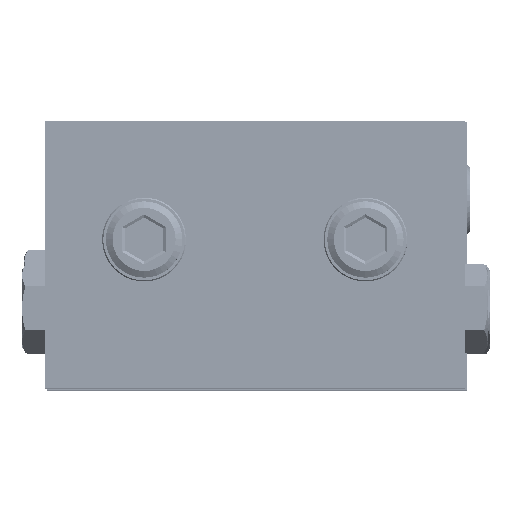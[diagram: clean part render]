
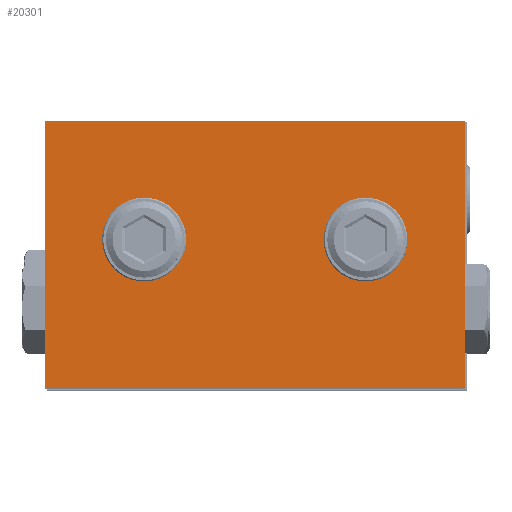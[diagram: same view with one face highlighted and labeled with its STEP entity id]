
A CAD part, top view. The second image highlights one B-rep face of the part: STEP entity #20301.
In plain terms, the highlighted planar face has unit normal (0, 0, 1) as drawn and (0, 0, -1) by its records, which use the part's own axes.
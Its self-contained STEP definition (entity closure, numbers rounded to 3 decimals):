
#448 = FACE_OUTER_BOUND ( 'NONE', #28440, .T. ) ;
#1157 = EDGE_LOOP ( 'NONE', ( #7011 ) ) ;
#5121 = EDGE_CURVE ( 'NONE', #9080, #9080, #14488, .T. ) ;
#5715 = CARTESIAN_POINT ( 'NONE',  ( -14.5, -15.5, -4.85 ) ) ;
#6324 = ORIENTED_EDGE ( 'NONE', *, *, #34199, .F. ) ;
#6448 = EDGE_LOOP ( 'NONE', ( #23881 ) ) ;
#7011 = ORIENTED_EDGE ( 'NONE', *, *, #5121, .F. ) ;
#7495 = VERTEX_POINT ( 'NONE', #36471 ) ;
#7661 = VERTEX_POINT ( 'NONE', #13384 ) ;
#7960 = CARTESIAN_POINT ( 'NONE',  ( 0., 0., -4.85 ) ) ;
#7995 = DIRECTION ( 'NONE',  ( 1., 0., 0. ) ) ;
#8312 = VECTOR ( 'NONE', #32478, 1000. ) ;
#9080 = VERTEX_POINT ( 'NONE', #11910 ) ;
#9601 = EDGE_CURVE ( 'NONE', #7495, #7495, #33884, .T. ) ;
#10459 = LINE ( 'NONE', #24738, #17442 ) ;
#10589 = ORIENTED_EDGE ( 'NONE', *, *, #11885, .F. ) ;
#10791 = LINE ( 'NONE', #7960, #23117 ) ;
#11496 = EDGE_CURVE ( 'NONE', #13953, #24462, #26640, .T. ) ;
#11532 = DIRECTION ( 'NONE',  ( 1., 0., 0. ) ) ;
#11885 = EDGE_CURVE ( 'NONE', #24462, #22578, #11905, .T. ) ;
#11905 = LINE ( 'NONE', #12084, #12606 ) ;
#11910 = CARTESIAN_POINT ( 'NONE',  ( -11.4, -15.5, -4.85 ) ) ;
#11976 = PLANE ( 'NONE',  #19397 ) ;
#12084 = CARTESIAN_POINT ( 'NONE',  ( 0., -35., -4.85 ) ) ;
#12606 = VECTOR ( 'NONE', #11532, 1000. ) ;
#13384 = CARTESIAN_POINT ( 'NONE',  ( 27.5, 0., -4.85 ) ) ;
#13953 = VERTEX_POINT ( 'NONE', #31751 ) ;
#14488 = CIRCLE ( 'NONE', #22289, 3.1 ) ;
#15753 = EDGE_CURVE ( 'NONE', #7661, #13953, #10791, .T. ) ;
#16880 = CARTESIAN_POINT ( 'NONE',  ( 14.5, -15.5, -4.85 ) ) ;
#17442 = VECTOR ( 'NONE', #27394, 1000. ) ;
#18149 = FACE_BOUND ( 'NONE', #1157, .T. ) ;
#18194 = CARTESIAN_POINT ( 'NONE',  ( -27.5, -35., -4.85 ) ) ;
#18524 = CARTESIAN_POINT ( 'NONE',  ( 0., 0., -4.85 ) ) ;
#19397 = AXIS2_PLACEMENT_3D ( 'NONE', #18524, #32865, #36219 ) ;
#20092 = DIRECTION ( 'NONE',  ( 0., 0., -1. ) ) ;
#20301 = ADVANCED_FACE ( 'NONE', ( #18149, #26263, #448 ), #11976, .F. ) ;
#20873 = ORIENTED_EDGE ( 'NONE', *, *, #11496, .F. ) ;
#20966 = CARTESIAN_POINT ( 'NONE',  ( -27.5, 0., -4.85 ) ) ;
#22289 = AXIS2_PLACEMENT_3D ( 'NONE', #5715, #28694, #7995 ) ;
#22578 = VERTEX_POINT ( 'NONE', #27812 ) ;
#22707 = DIRECTION ( 'NONE',  ( -1., 0., 0. ) ) ;
#23019 = AXIS2_PLACEMENT_3D ( 'NONE', #16880, #20092, #22707 ) ;
#23117 = VECTOR ( 'NONE', #33224, 1000. ) ;
#23881 = ORIENTED_EDGE ( 'NONE', *, *, #9601, .F. ) ;
#24462 = VERTEX_POINT ( 'NONE', #18194 ) ;
#24738 = CARTESIAN_POINT ( 'NONE',  ( 27.5, 0., -4.85 ) ) ;
#26263 = FACE_BOUND ( 'NONE', #6448, .T. ) ;
#26640 = LINE ( 'NONE', #20966, #8312 ) ;
#27394 = DIRECTION ( 'NONE',  ( 0., 1., 0. ) ) ;
#27812 = CARTESIAN_POINT ( 'NONE',  ( 27.5, -35., -4.85 ) ) ;
#28440 = EDGE_LOOP ( 'NONE', ( #33723, #6324, #10589, #20873 ) ) ;
#28694 = DIRECTION ( 'NONE',  ( 0., 0., -1. ) ) ;
#31751 = CARTESIAN_POINT ( 'NONE',  ( -27.5, 0., -4.85 ) ) ;
#32478 = DIRECTION ( 'NONE',  ( 0., -1., 0. ) ) ;
#32865 = DIRECTION ( 'NONE',  ( 0., 0., 1. ) ) ;
#33224 = DIRECTION ( 'NONE',  ( -1., 0., 0. ) ) ;
#33723 = ORIENTED_EDGE ( 'NONE', *, *, #15753, .F. ) ;
#33884 = CIRCLE ( 'NONE', #23019, 3.1 ) ;
#34199 = EDGE_CURVE ( 'NONE', #22578, #7661, #10459, .T. ) ;
#36219 = DIRECTION ( 'NONE',  ( 1., 0., 0. ) ) ;
#36471 = CARTESIAN_POINT ( 'NONE',  ( 11.4, -15.5, -4.85 ) ) ;
